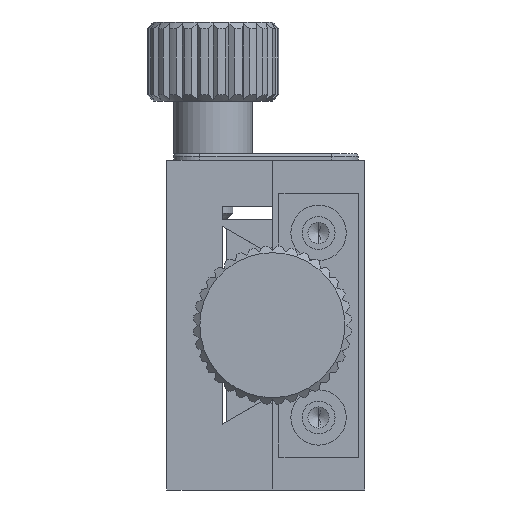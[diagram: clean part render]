
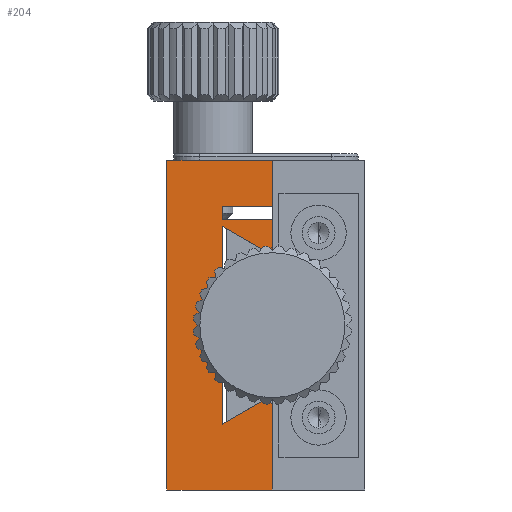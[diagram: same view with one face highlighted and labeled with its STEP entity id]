
A CAD part, left-side view. The second image highlights one B-rep face of the part: STEP entity #204.
In plain terms, the highlighted planar face has unit normal (-1, 0, 0) as drawn and (0, 0, 1) by its records, which use the part's own axes.
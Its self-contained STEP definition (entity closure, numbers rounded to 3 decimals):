
#48 = DIRECTION ( 'NONE',  ( 1., 0., 0. ) ) ;
#85 = CARTESIAN_POINT ( 'NONE',  ( -12.5, -8., 12.5 ) ) ;
#204 = ADVANCED_FACE ( 'NONE', ( #6598 ), #10480, .T. ) ;
#350 = EDGE_CURVE ( 'NONE', #11527, #8948, #8282, .T. ) ;
#438 = VECTOR ( 'NONE', #4332, 1000. ) ;
#529 = CARTESIAN_POINT ( 'NONE',  ( 12.5, -8., 12.5 ) ) ;
#549 = VERTEX_POINT ( 'NONE', #10148 ) ;
#887 = EDGE_CURVE ( 'NONE', #549, #12971, #11516, .T. ) ;
#903 = LINE ( 'NONE', #8448, #6948 ) ;
#1374 = LINE ( 'NONE', #5892, #13870 ) ;
#1669 = CARTESIAN_POINT ( 'NONE',  ( 9., -8., 12.5 ) ) ;
#2479 = ORIENTED_EDGE ( 'NONE', *, *, #9396, .T. ) ;
#2532 = DIRECTION ( 'NONE',  ( 1., 0., 0. ) ) ;
#2609 = CARTESIAN_POINT ( 'NONE',  ( -12.5, 0., 12.5 ) ) ;
#2710 = VERTEX_POINT ( 'NONE', #6257 ) ;
#2892 = VERTEX_POINT ( 'NONE', #11545 ) ;
#2983 = ORIENTED_EDGE ( 'NONE', *, *, #6834, .F. ) ;
#3342 = CARTESIAN_POINT ( 'NONE',  ( 9., -4.2, 12.5 ) ) ;
#3807 = ORIENTED_EDGE ( 'NONE', *, *, #4763, .T. ) ;
#3849 = DIRECTION ( 'NONE',  ( 0., 0., 1. ) ) ;
#4332 = DIRECTION ( 'NONE',  ( 1., 0., 0. ) ) ;
#4632 = EDGE_CURVE ( 'NONE', #7769, #4861, #903, .T. ) ;
#4692 = VECTOR ( 'NONE', #14456, 1000. ) ;
#4763 = EDGE_CURVE ( 'NONE', #4861, #5824, #9027, .T. ) ;
#4861 = VERTEX_POINT ( 'NONE', #9132 ) ;
#4938 = LINE ( 'NONE', #10428, #9605 ) ;
#5245 = CARTESIAN_POINT ( 'NONE',  ( 12.5, 0., 12.5 ) ) ;
#5747 = VECTOR ( 'NONE', #2532, 1000. ) ;
#5811 = VECTOR ( 'NONE', #12631, 1000. ) ;
#5824 = VERTEX_POINT ( 'NONE', #5245 ) ;
#5892 = CARTESIAN_POINT ( 'NONE',  ( 7.5, -4.2, 12.5 ) ) ;
#6149 = ORIENTED_EDGE ( 'NONE', *, *, #8074, .T. ) ;
#6257 = CARTESIAN_POINT ( 'NONE',  ( 8., -8., 12.5 ) ) ;
#6598 = FACE_OUTER_BOUND ( 'NONE', #8793, .T. ) ;
#6694 = ORIENTED_EDGE ( 'NONE', *, *, #9213, .T. ) ;
#6832 = DIRECTION ( 'NONE',  ( 1., 0., 0. ) ) ;
#6834 = EDGE_CURVE ( 'NONE', #11883, #5824, #12217, .T. ) ;
#6948 = VECTOR ( 'NONE', #48, 1000. ) ;
#7196 = DIRECTION ( 'NONE',  ( -0.5, 0.866, 0. ) ) ;
#7328 = DIRECTION ( 'NONE',  ( 0., 1., 0. ) ) ;
#7378 = CARTESIAN_POINT ( 'NONE',  ( 9., -4.2, 12.5 ) ) ;
#7507 = CARTESIAN_POINT ( 'NONE',  ( -12.5, -8., 12.5 ) ) ;
#7550 = VECTOR ( 'NONE', #9485, 1000. ) ;
#7769 = VERTEX_POINT ( 'NONE', #1669 ) ;
#7902 = ORIENTED_EDGE ( 'NONE', *, *, #12860, .T. ) ;
#8051 = CARTESIAN_POINT ( 'NONE',  ( -7.5, -4.2, 12.5 ) ) ;
#8074 = EDGE_CURVE ( 'NONE', #12971, #14482, #1374, .T. ) ;
#8158 = LINE ( 'NONE', #7378, #11030 ) ;
#8253 = CARTESIAN_POINT ( 'NONE',  ( 8., -8., 12.5 ) ) ;
#8282 = LINE ( 'NONE', #12021, #4692 ) ;
#8448 = CARTESIAN_POINT ( 'NONE',  ( -12.5, -8., 12.5 ) ) ;
#8493 = CARTESIAN_POINT ( 'NONE',  ( 8., -4.2, 12.5 ) ) ;
#8598 = DIRECTION ( 'NONE',  ( 0., -1., 0. ) ) ;
#8764 = LINE ( 'NONE', #8493, #14844 ) ;
#8793 = EDGE_LOOP ( 'NONE', ( #15257, #11704, #3807, #2983, #10121, #14222, #2479, #11200, #6149, #6694, #7902, #14244 ) ) ;
#8847 = EDGE_CURVE ( 'NONE', #11527, #11883, #12351, .T. ) ;
#8948 = VERTEX_POINT ( 'NONE', #14792 ) ;
#9027 = LINE ( 'NONE', #529, #5811 ) ;
#9132 = CARTESIAN_POINT ( 'NONE',  ( 12.5, -8., 12.5 ) ) ;
#9213 = EDGE_CURVE ( 'NONE', #14482, #2710, #4938, .T. ) ;
#9223 = CARTESIAN_POINT ( 'NONE',  ( -12.5, -8., 12.5 ) ) ;
#9396 = EDGE_CURVE ( 'NONE', #8948, #549, #12770, .T. ) ;
#9485 = DIRECTION ( 'NONE',  ( 0., 1., 0. ) ) ;
#9561 = VECTOR ( 'NONE', #7196, 1000. ) ;
#9605 = VECTOR ( 'NONE', #6832, 1000. ) ;
#9688 = AXIS2_PLACEMENT_3D ( 'NONE', #7507, #3849, #11122 ) ;
#9729 = DIRECTION ( 'NONE',  ( 1., 0., 0. ) ) ;
#10121 = ORIENTED_EDGE ( 'NONE', *, *, #8847, .F. ) ;
#10148 = CARTESIAN_POINT ( 'NONE',  ( -7.5, -4.2, 12.5 ) ) ;
#10428 = CARTESIAN_POINT ( 'NONE',  ( -12.5, -8., 12.5 ) ) ;
#10480 = PLANE ( 'NONE',  #9688 ) ;
#11030 = VECTOR ( 'NONE', #8598, 1000. ) ;
#11122 = DIRECTION ( 'NONE',  ( 1., 0., 0. ) ) ;
#11172 = LINE ( 'NONE', #8253, #7550 ) ;
#11200 = ORIENTED_EDGE ( 'NONE', *, *, #887, .T. ) ;
#11516 = LINE ( 'NONE', #8051, #438 ) ;
#11527 = VERTEX_POINT ( 'NONE', #9223 ) ;
#11545 = CARTESIAN_POINT ( 'NONE',  ( 8., -4.2, 12.5 ) ) ;
#11610 = VERTEX_POINT ( 'NONE', #3342 ) ;
#11704 = ORIENTED_EDGE ( 'NONE', *, *, #4632, .T. ) ;
#11883 = VERTEX_POINT ( 'NONE', #2609 ) ;
#12021 = CARTESIAN_POINT ( 'NONE',  ( -12.5, -8., 12.5 ) ) ;
#12030 = CARTESIAN_POINT ( 'NONE',  ( -7.5, -4.2, 12.5 ) ) ;
#12217 = LINE ( 'NONE', #12229, #5747 ) ;
#12229 = CARTESIAN_POINT ( 'NONE',  ( -12.5, 0., 12.5 ) ) ;
#12351 = LINE ( 'NONE', #85, #14804 ) ;
#12519 = CARTESIAN_POINT ( 'NONE',  ( 5.306, -8., 12.5 ) ) ;
#12631 = DIRECTION ( 'NONE',  ( 0., 1., 0. ) ) ;
#12770 = LINE ( 'NONE', #12030, #9561 ) ;
#12860 = EDGE_CURVE ( 'NONE', #2710, #2892, #11172, .T. ) ;
#12971 = VERTEX_POINT ( 'NONE', #15675 ) ;
#13157 = DIRECTION ( 'NONE',  ( -0.5, -0.866, 0. ) ) ;
#13870 = VECTOR ( 'NONE', #13157, 1000. ) ;
#14222 = ORIENTED_EDGE ( 'NONE', *, *, #350, .T. ) ;
#14244 = ORIENTED_EDGE ( 'NONE', *, *, #14398, .T. ) ;
#14398 = EDGE_CURVE ( 'NONE', #2892, #11610, #8764, .T. ) ;
#14456 = DIRECTION ( 'NONE',  ( 1., 0., 0. ) ) ;
#14482 = VERTEX_POINT ( 'NONE', #12519 ) ;
#14792 = CARTESIAN_POINT ( 'NONE',  ( -5.306, -8., 12.5 ) ) ;
#14804 = VECTOR ( 'NONE', #7328, 1000. ) ;
#14844 = VECTOR ( 'NONE', #9729, 1000. ) ;
#15257 = ORIENTED_EDGE ( 'NONE', *, *, #15353, .T. ) ;
#15353 = EDGE_CURVE ( 'NONE', #11610, #7769, #8158, .T. ) ;
#15675 = CARTESIAN_POINT ( 'NONE',  ( 7.5, -4.2, 12.5 ) ) ;
